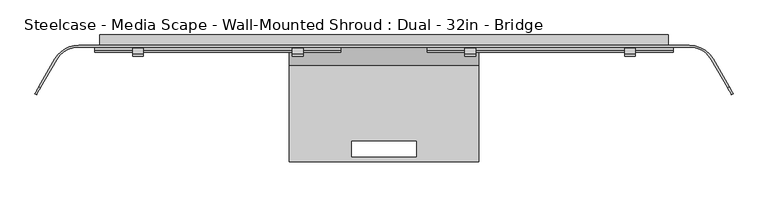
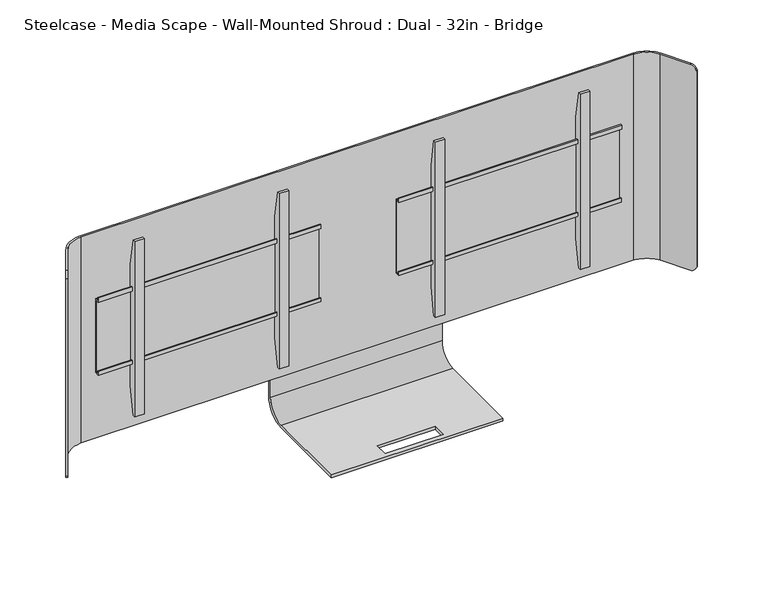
"""IFC4 building model written with IfcOpenShell, lengths in millimetres: furniture geometry, Steelcase - Media Scape - Wall-Mounted Shroud : Dual - 32in - Bridge."""

from ifc_helpers import new_model, si_unit, frame, origin, place, context, project, spatial, polyline, circle_curve, outline, extrude, source, transform, mapped, element, save
from ifc_brep_helpers import plane_surface, cylinder_surface, revolved_surface, advanced_brep


def steelcase_media_scape_wall_mounted_shroud_dual_32in_bridge_86ff4495(model_context):
    return source(origin(), model_context, "Body", "SolidModel", [
        extrude(outline(polyline([(-42.4942785, 1237.6504726), (-42.4942785, 1249.6645649), (-39.8272175, 1249.6645649), (-39.8272175, 1240.317461), (-29.9720009, 1240.317461), (-29.9720009, 1025.9922438), (-42.3164551, 1025.9922438), (-42.3164551, 1036.9142515), (-39.649394, 1036.9142515), (-39.649394, 1028.657052), (-32.6531824, 1028.657052), (-32.6531824, 1237.6504726), (-42.4942785, 1237.6504726)])), frame((107.061, 0.0, 0.0), z_axis=(1.0, 0.0, 0.0), x_axis=(0.0, 1.0, 0.0)), (0.0, 0.0, 1.0), 609.6),
        extrude(outline(polyline([(-32.6531824, 1308.5971148), (-32.6531824, 956.7825607), (-46.5049349, 879.1546949), (-53.3399828, 879.1546949), (-53.3399828, 1387.1547192), (-46.5050076, 1387.1547192), (-32.6531824, 1308.5971148)])), frame((200.662426, 0.0, 0.0), z_axis=(1.0, 0.0, 0.0), x_axis=(0.0, 1.0, 0.0)), (0.0, 0.0, 1.0), 26.1592872),
        extrude(outline(polyline([(-32.6531824, 1308.5971148), (-32.6531824, 956.7825607), (-46.5049349, 879.1546949), (-53.3399828, 879.1546949), (-53.3399828, 1387.1547192), (-46.5050076, 1387.1547192), (-32.6531824, 1308.5971148)])), frame((596.9002868, 0.0, 0.0), z_axis=(1.0, 0.0, 0.0), x_axis=(0.0, 1.0, 0.0)), (0.0, 0.0, 1.0), 26.1592872),
        extrude(outline(polyline([(-42.4942785, 1237.6504726), (-42.4942785, 1249.6645649), (-39.8272175, 1249.6645649), (-39.8272175, 1240.317461), (-29.9720009, 1240.317461), (-29.9720009, 1025.9922438), (-42.3164551, 1025.9922438), (-42.3164551, 1036.9142515), (-39.649394, 1036.9142515), (-39.649394, 1028.657052), (-32.6531824, 1028.657052), (-32.6531824, 1237.6504726), (-42.4942785, 1237.6504726)])), frame((-716.661, 0.0, 0.0), z_axis=(1.0, 0.0, 0.0), x_axis=(0.0, 1.0, 0.0)), (0.0, 0.0, 1.0), 609.6),
        extrude(outline(polyline([(-32.6531824, 1308.5971148), (-32.6531824, 956.7825607), (-46.5049349, 879.1546949), (-53.3399828, 879.1546949), (-53.3399828, 1387.1547192), (-46.5050076, 1387.1547192), (-32.6531824, 1308.5971148)])), frame((-226.8217132, 0.0, 0.0), z_axis=(1.0, 0.0, 0.0), x_axis=(0.0, 1.0, 0.0)), (0.0, 0.0, 1.0), 26.1592872),
        extrude(outline(polyline([(-32.6531824, 1308.5971148), (-32.6531824, 956.7825607), (-46.5049349, 879.1546949), (-53.3399828, 879.1546949), (-53.3399828, 1387.1547192), (-46.5050076, 1387.1547192), (-32.6531824, 1308.5971148)])), frame((-623.059574, 0.0, 0.0), z_axis=(1.0, 0.0, 0.0), x_axis=(0.0, 1.0, 0.0)), (0.0, 0.0, 1.0), 26.1592872),
        advanced_brep(
        [(234.9499879, -25.4, 783.5646188), (234.9499879, -75.8697585, 733.0948603), (234.9499879, -314.3253876, 733.0948603), (234.9499879, -314.3253876, 725.1446188), (234.9499879, -75.8696132, 725.1446188), (234.9499879, -17.4496132, 783.5646188), (234.9499879, -17.4496132, 1037.8947876), (234.9499879, -25.4, 1037.8947876), (-234.9499879, -25.4, 783.5646188), (-234.9499879, -25.4, 1037.8947876), (-234.9499879, -17.4496132, 1037.8947876), (-234.9499879, -17.4496132, 783.5646188), (-234.9499879, -75.8696132, 725.1446188), (-234.9499879, -314.3253876, 725.1446188), (-234.9499879, -314.3253876, 733.0948603), (-234.9499879, -75.8697585, 733.0948603), (-79.502, -263.5253876, 733.0948603), (79.502, -263.5253876, 733.0948603), (79.502, -301.6253876, 733.0948603), (-79.502, -301.6253876, 733.0948603), (79.502, -263.5253876, 725.1446188), (-79.502, -263.5253876, 725.1446188), (-79.502, -301.6253876, 725.1446188), (79.502, -301.6253876, 725.1446188)],
        [
            (0, 1, circle_curve(frame((234.9499879, -75.8697585, 783.5646188), z_axis=(-1.0, 0.0, 0.0), x_axis=(0.0, 1.0, 0.0)), 50.4697585)),
            (1, 2),
            (2, 3),
            (3, 4),
            (4, 5, circle_curve(frame((234.9499879, -75.8696132, 783.5646188), z_axis=(1.0, 0.0, 0.0), x_axis=(0.0, 1.0, 0.0)), 58.42)),
            (5, 6),
            (6, 7),
            (7, 0),
            (8, 9),
            (9, 10),
            (10, 11),
            (11, 12, circle_curve(frame((-234.9499879, -75.8696132, 783.5646188), z_axis=(-1.0, 0.0, 0.0), x_axis=(0.0, 1.0, 0.0)), 58.42)),
            (12, 13),
            (13, 14),
            (14, 15),
            (15, 8, circle_curve(frame((-234.9499879, -75.8697585, 783.5646188), z_axis=(1.0, 0.0, 0.0), x_axis=(0.0, 1.0, 0.0)), 50.4697585)),
            (1, 15),
            (14, 2),
            (16, 17),
            (17, 18),
            (18, 19),
            (19, 16),
            (13, 3),
            (12, 4),
            (20, 21),
            (21, 22),
            (22, 23),
            (23, 20),
            (5, 11),
            (10, 6),
            (9, 7),
            (8, 0),
            (20, 17),
            (16, 21),
            (19, 22),
            (18, 23),
        ],
        [
            plane_surface(frame((234.9499879, -25.4, 783.5646188), z_axis=(1.0, 0.0, 0.0), x_axis=(0.0, 0.0, -1.0))),
            plane_surface(frame((-234.9499879, -25.4, 783.5646188), z_axis=(-1.0, 0.0, 0.0), x_axis=(0.0, 0.0, 1.0))),
            plane_surface(frame((234.9499879, -75.8697585, 733.0948603), z_axis=(0.0, 0.0, 1.0), x_axis=(-1.0, 0.0, 0.0))),
            plane_surface(frame((234.9499879, -314.3253876, 733.0948603), z_axis=(0.0, -1.0, 0.0), x_axis=(-1.0, 0.0, 0.0))),
            plane_surface(frame((234.9499879, -314.3253876, 725.1446188), z_axis=(0.0, 0.0, -1.0), x_axis=(-1.0, 0.0, 0.0))),
            plane_surface(frame((234.9499879, -17.4496132, 783.5646188), z_axis=(0.0, 1.0, 0.0), x_axis=(-1.0, 0.0, 0.0))),
            plane_surface(frame((234.9499879, -17.4496132, 1037.8947876), z_axis=(0.0, 0.0, 1.0), x_axis=(-1.0, 0.0, 0.0))),
            plane_surface(frame((234.9499879, -25.4, 1037.8947876), z_axis=(0.0, -1.0, 0.0), x_axis=(-1.0, 0.0, 0.0))),
            revolved_surface(polyline([(-234.9499879, -25.400000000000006, 783.5646188), (234.9499879, -25.400000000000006, 783.5646188)]), (-234.9499879, -75.8697585, 783.5646188), (-1.0, 0.0, 0.0)),
            cylinder_surface(frame((-234.9499879, -75.8696132, 783.5646188), z_axis=(1.0, 0.0, 0.0), x_axis=(0.0, 1.0, 0.0)), 58.42),
            plane_surface(frame((79.502, -263.5253876, 1824.7300588), z_axis=(0.0, -1.0, 0.0), x_axis=(0.0, 0.0, -1.0))),
            plane_surface(frame((-79.502, -263.5253876, 1824.7300588), z_axis=(1.0, 0.0, 0.0), x_axis=(0.0, 0.0, -1.0))),
            plane_surface(frame((-79.502, -301.6253876, 1824.7300588), z_axis=(0.0, 1.0, 0.0), x_axis=(0.0, 0.0, -1.0))),
            plane_surface(frame((79.502, -301.6253876, 1824.7300588), z_axis=(-1.0, 0.0, 0.0), x_axis=(0.0, 0.0, -1.0))),
        ],
        [
            (0, [[1, 2, 3, 4, 5, 6, 7, 8]]),
            (1, [[9, 10, 11, 12, 13, 14, 15, 16]]),
            (2, [[-2, 17, -15, 18], [19, 20, 21, 22]]),
            (3, [[-3, -18, -14, 23]]),
            (4, [[-4, -23, -13, 24], [25, 26, 27, 28]]),
            (5, [[-6, 29, -11, 30]]),
            (6, [[-7, -30, -10, 31]]),
            (7, [[-8, -31, -9, 32]]),
            (8, [[-1, -32, -16, -17]]),
            (9, [[-5, -24, -12, -29]]),
            (10, [[33, -19, 34, -25]]),
            (11, [[-34, -22, 35, -26]]),
            (12, [[-35, -21, 36, -27]]),
            (13, [[-33, -28, -36, -20]]),
        ],
    ),
        advanced_brep(
        [(-811.6586135, -61.722, 1432.814), (-756.666002, -29.9720009, 1432.814), (756.666, -29.9720009, 1432.814), (811.6586135, -61.722, 1432.814), (851.779586, -131.2135628, 1432.814), (855.7390541, -128.9275628, 1432.814), (815.6180817, -59.436, 1432.814), (756.666002, -25.4, 1432.814), (-756.666, -25.4, 1432.814), (-815.6180817, -59.436, 1432.814), (-855.7421659, -128.9329524, 1432.814), (-851.7826977, -131.2189524, 1432.814), (-815.6180817, -59.436, 835.914), (-756.666002, -25.4, 835.914), (756.666, -25.4, 835.914), (815.6180817, -59.436, 835.914), (855.7906629, -129.0169518, 835.914), (851.8311948, -131.3029518, 835.914), (811.6586135, -61.722, 835.914), (756.666002, -29.9720009, 835.914), (-756.666, -29.9720009, 835.914), (-811.6586135, -61.722, 835.914), (-851.8454014, -131.3275584, 835.914), (-855.8048695, -129.0415584, 835.914), (-865.3090632, -145.5033047, 849.5242766), (-865.3090632, -145.5033047, 1418.8227735), (-861.3495951, -147.7893047, 1418.8227735), (-861.3495951, -147.7893047, 849.5242766), (861.3270866, -147.7503189, 849.4756893), (861.3270866, -147.7503189, 1418.9433849), (865.2865547, -145.4643189, 1418.9433849), (865.2865547, -145.4643189, 849.4756893)],
        [
            (0, 1, circle_curve(frame((-756.666002, -93.4719991, 1432.814), z_axis=(0.0, 0.0, -1.0), x_axis=(0.0, 1.0, 0.0)), 63.4999981)),
            (1, 2),
            (2, 3, circle_curve(frame((756.666002, -93.4719991, 1432.814), z_axis=(0.0, 0.0, -1.0), x_axis=(0.0, 1.0, 0.0)), 63.4999981)),
            (3, 4),
            (4, 5),
            (5, 6),
            (6, 7, circle_curve(frame((756.6660004, -93.472, 1432.814), z_axis=(0.0, 0.0, 1.0), x_axis=(0.0, 1.0, 0.0)), 68.072)),
            (7, 8),
            (8, 9, circle_curve(frame((-756.6660004, -93.472, 1432.814), z_axis=(0.0, 0.0, 1.0), x_axis=(0.0, 1.0, 0.0)), 68.072)),
            (9, 10),
            (10, 11),
            (11, 0),
            (12, 13, circle_curve(frame((-756.6660004, -93.472, 835.914), z_axis=(0.0, 0.0, -1.0), x_axis=(0.0, 1.0, 0.0)), 68.072)),
            (13, 14),
            (14, 15, circle_curve(frame((756.6660004, -93.472, 835.914), z_axis=(0.0, 0.0, -1.0), x_axis=(0.0, 1.0, 0.0)), 68.072)),
            (15, 16),
            (16, 17),
            (17, 18),
            (18, 19, circle_curve(frame((756.666002, -93.4719991, 835.914), z_axis=(0.0, 0.0, 1.0), x_axis=(0.0, 1.0, 0.0)), 63.4999981)),
            (19, 20),
            (20, 21, circle_curve(frame((-756.666002, -93.4719991, 835.914), z_axis=(0.0, 0.0, 1.0), x_axis=(0.0, 1.0, 0.0)), 63.4999981)),
            (21, 22),
            (22, 23),
            (23, 12),
            (0, 21),
            (20, 1),
            (8, 13),
            (12, 9),
            (23, 24, circle_curve(frame((-855.8048695, -129.0415584, 855.9928872), z_axis=(-0.8660254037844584, 0.49999999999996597, 0.0), x_axis=(-0.49999999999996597, -0.8660254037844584, 0.0)), 20.0788872)),
            (24, 25),
            (25, 10, circle_curve(frame((-855.7421659, -128.9329524, 1412.7351128), z_axis=(-0.8660254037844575, 0.4999999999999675, 0.0), x_axis=(-0.4999999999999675, -0.8660254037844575, 0.0)), 20.0788872)),
            (26, 25),
            (24, 27),
            (27, 26),
            (11, 26, circle_curve(frame((-851.7826977, -131.2189524, 1412.7351128), z_axis=(0.8660254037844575, -0.4999999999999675, 0.0), x_axis=(-0.4999999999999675, -0.8660254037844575, 0.0)), 20.0788872)),
            (27, 22, circle_curve(frame((-851.8454014, -131.3275584, 855.9928872), z_axis=(0.8660254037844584, -0.49999999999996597, 0.0), x_axis=(-0.49999999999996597, -0.8660254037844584, 0.0)), 20.0788872)),
            (7, 14),
            (19, 2),
            (3, 18),
            (17, 28, circle_curve(frame((851.8311948, -131.3029518, 855.9928872), z_axis=(-0.8660254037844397, -0.49999999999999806, 0.0), x_axis=(0.49999999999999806, -0.8660254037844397, 0.0)), 20.0788872)),
            (28, 29),
            (29, 4, circle_curve(frame((851.779586, -131.2135628, 1412.7351128), z_axis=(-0.8660254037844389, -0.49999999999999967, 0.0), x_axis=(0.49999999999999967, -0.8660254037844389, 0.0)), 20.0788872)),
            (30, 29),
            (28, 31),
            (31, 30),
            (15, 6),
            (5, 30, circle_curve(frame((855.7390541, -128.9275628, 1412.7351128), z_axis=(0.8660254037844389, 0.49999999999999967, 0.0), x_axis=(0.49999999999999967, -0.8660254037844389, 0.0)), 20.0788872)),
            (31, 16, circle_curve(frame((855.7906629, -129.0169518, 855.9928872), z_axis=(0.8660254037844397, 0.49999999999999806, 0.0), x_axis=(0.49999999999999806, -0.8660254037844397, 0.0)), 20.0788872)),
        ],
        [
            plane_surface(frame((-756.666002, -29.9720009, 1432.814), z_axis=(0.0, 0.0, 1.0), x_axis=(1.0, 0.0, 0.0))),
            plane_surface(frame((-756.666002, -29.9720009, 835.914), z_axis=(0.0, 0.0, -1.0), x_axis=(-1.0, 0.0, 0.0))),
            revolved_surface(polyline([(-756.666002, -29.972001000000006, 835.914), (-756.666002, -29.972001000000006, 1432.814)]), (-756.666002, -93.4719991, 835.914), (0.0, 0.0, -1.0)),
            cylinder_surface(frame((-756.6660004, -93.472, 835.914), z_axis=(0.0, 0.0, 1.0), x_axis=(0.0, 1.0, 0.0)), 68.072),
            plane_surface(frame((-815.6180817, -59.436, 1432.814), z_axis=(-0.8660254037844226, 0.5000000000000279, 0.0), x_axis=(0.0, 0.0, -1.0))),
            plane_surface(frame((-865.3090632, -145.5033047, 1432.814), z_axis=(-0.5000000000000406, -0.8660254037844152, 0.0), x_axis=(0.0, 0.0, -1.0))),
            plane_surface(frame((-861.3495951, -147.7893047, 1432.814), z_axis=(0.8660254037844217, -0.5000000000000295, 0.0), x_axis=(0.0, 0.0, -1.0))),
            plane_surface(frame((756.666, -25.4, 1432.814), z_axis=(0.0, 1.0, 0.0), x_axis=(0.0, 0.0, -1.0))),
            plane_surface(frame((-756.666, -29.9720009, 1432.814), z_axis=(0.0, -1.0, 0.0), x_axis=(0.0, 0.0, -1.0))),
            plane_surface(frame((811.6586135, -61.722, 1432.814), z_axis=(-0.8660254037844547, -0.4999999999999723, 0.0), x_axis=(0.0, 0.0, -1.0))),
            plane_surface(frame((861.3270866, -147.7503189, 1432.814), z_axis=(0.4999999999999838, -0.866025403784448, 0.0), x_axis=(0.0, 0.0, -1.0))),
            plane_surface(frame((865.2865547, -145.4643189, 1432.814), z_axis=(0.8660254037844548, 0.49999999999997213, 0.0), x_axis=(0.0, 0.0, -1.0))),
            cylinder_surface(frame((756.6660004, -93.472, 835.914), z_axis=(0.0, 0.0, 1.0), x_axis=(0.0, 1.0, 0.0)), 68.072),
            revolved_surface(polyline([(756.666002, -29.972001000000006, 835.914), (756.666002, -29.972001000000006, 1432.814)]), (756.666002, -93.4719991, 835.914), (0.0, 0.0, -1.0)),
            cylinder_surface(frame((-851.7826977, -131.2189524, 1412.7351128), z_axis=(0.8660254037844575, -0.4999999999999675, 0.0), x_axis=(-0.4999999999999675, -0.8660254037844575, 0.0)), 20.0788872),
            cylinder_surface(frame((-851.8454014, -131.3275584, 855.9928872), z_axis=(0.8660254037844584, -0.49999999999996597, 0.0), x_axis=(-0.49999999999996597, -0.8660254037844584, 0.0)), 20.0788872),
            cylinder_surface(frame((866.8864297, -122.4916225, 1412.7351128), z_axis=(0.8660254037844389, 0.49999999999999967, 0.0), x_axis=(0.49999999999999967, -0.8660254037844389, 0.0)), 20.0788872),
            cylinder_surface(frame((864.0789695, -124.2316958, 855.9928872), z_axis=(0.8660254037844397, 0.49999999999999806, 0.0), x_axis=(0.49999999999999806, -0.8660254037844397, 0.0)), 20.0788872),
        ],
        [
            (0, [[1, 2, 3, 4, 5, 6, 7, 8, 9, 10, 11, 12]]),
            (1, [[13, 14, 15, 16, 17, 18, 19, 20, 21, 22, 23, 24]]),
            (2, [[-1, 25, -21, 26]]),
            (3, [[-9, 27, -13, 28]]),
            (4, [[-28, -24, 29, 30, 31, -10]]),
            (5, [[32, -30, 33, 34]]),
            (6, [[-25, -12, 35, -34, 36, -22]]),
            (7, [[-8, 37, -14, -27]]),
            (8, [[-2, -26, -20, 38]]),
            (9, [[39, -18, 40, 41, 42, -4]]),
            (10, [[43, -41, 44, 45]]),
            (11, [[46, -6, 47, -45, 48, -16]]),
            (12, [[-7, -46, -15, -37]]),
            (13, [[-3, -38, -19, -39]]),
            (14, [[-11, -31, -32, -35]]),
            (15, [[-23, -36, -33, -29]]),
            (16, [[-5, -42, -43, -47]]),
            (17, [[-17, -48, -44, -40]]),
        ],
    ),
        extrude(outline(polyline([(912.1648167, 641.3499879), (912.1648167, 704.85), (1356.614, 704.85), (1356.614, -704.85), (912.1648167, -704.85), (912.1648167, -642.3433465), (1293.1139516, -642.3433465), (1293.1139516, 641.3499879), (912.1648167, 641.3499879)])), frame((0.0, -25.4, 0.0), z_axis=(0.0, 1.0, 0.0), x_axis=(0.0, 0.0, 1.0)), (0.0, 0.0, 1.0), 25.4),
    ])


if __name__ == "__main__":
    model = new_model("IFC4")
    model_context = context("Model", 3, world=origin())
    ifc_project = project(units=[si_unit("LENGTHUNIT", "METRE", prefix="MILLI")], contexts=[model_context])
    site = spatial("IfcSite", under=ifc_project)
    building = spatial("IfcBuilding", under=site)
    placement = place(None, origin())
    steelcase_media_scape_wall_mounted_shroud_dual_32in_bridge_shape = steelcase_media_scape_wall_mounted_shroud_dual_32in_bridge_86ff4495(model_context)
    element("IfcFurniture", 1, ObjectType="Steelcase - Media Scape - Wall-Mounted Shroud : Dual - 32in - Bridge", at=placement, inside=building, context=model_context, shape_type="MappedRepresentation", body=[
        mapped(steelcase_media_scape_wall_mounted_shroud_dual_32in_bridge_shape, transform((0.0, 0.0, 0.0), x_axis=(1.0, 0.0, 0.0), y_axis=(0.0, 1.0, 0.0), z_axis=(0.0, 0.0, 1.0))),
    ])
    save(model, "model.ifc")
